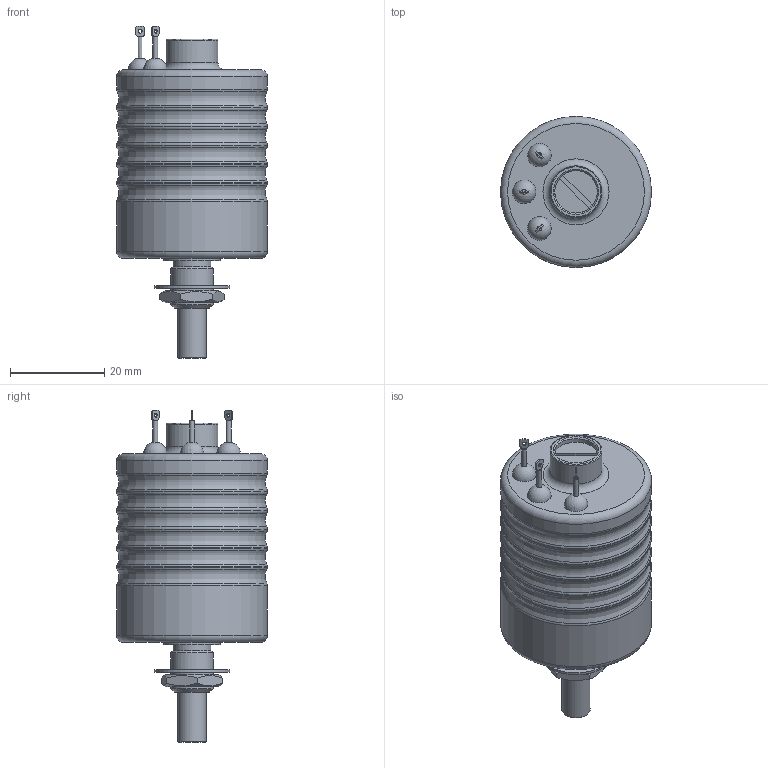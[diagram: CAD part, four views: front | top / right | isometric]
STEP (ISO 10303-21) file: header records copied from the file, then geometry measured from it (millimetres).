
FILE_DESCRIPTION (( 'STEP AP214' ), '1' );
FILE_NAME ('OFH3010.STEP', '2019-04-29T09:43:31', ( '' ), ( '' ), 'SwSTEP 2.0', 'SolidWorks 2017', '' );
FILE_SCHEMA (( 'AUTOMOTIVE_DESIGN' ));
Length unit declared in the file: millimetre
Products named in the file (4): OFH3010; Serrated Washer_M9; hex nut-SW12; OFH3010-Dummy
Assembly tree (3 placements, depth 2):
  OFH3010
    OFH3010-Dummy
    Serrated Washer_M9
    hex nut-SW12
Bounding box: 32 x 32 x 70.4 mm (x, y, z)
Volume: 33229 mm3; surface area: 6989.1 mm2
Topology: 3 solids, 3 shells, 211 faces, 558 edges, 358 vertices
Faces by surface type: plane 99, cylinder 81, torus 22, cone 6, sphere 3
Full cylindrical faces by diameter (mm): 0.027 x3, 0.8 x3, 1 x3, 6 x1, 8 x1, 8.5 x1, 9 x2, 11 x1, 12 x1, 16 x1, 32 x7
Entity records: 6304 total; most frequent: CARTESIAN_POINT 1135, DIRECTION 1102, ORIENTED_EDGE 952, EDGE_CURVE 476, AXIS2_PLACEMENT_3D 421, VERTEX_POINT 334, EDGE_LOOP 290, LINE 260
